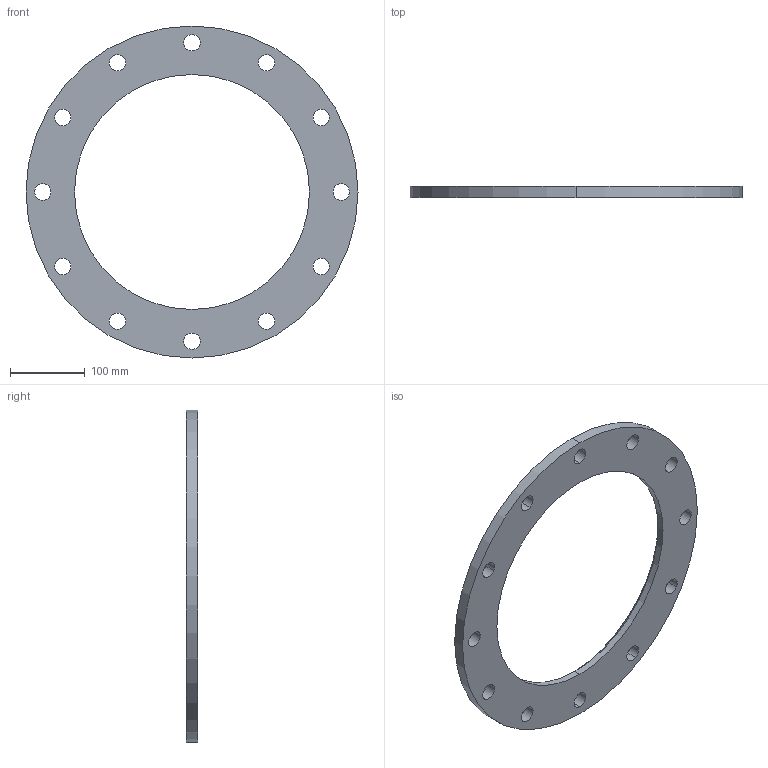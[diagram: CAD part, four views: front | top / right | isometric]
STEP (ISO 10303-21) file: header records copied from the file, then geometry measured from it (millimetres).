
FILE_DESCRIPTION (( 'STEP AP203' ), '1' );
FILE_NAME ('3D_R185_PN10_DN304_176641215_176642215.STEP', '2024-07-10T07:21:14', ( '' ), ( '' ), 'SwSTEP 2.0', 'SolidWorks 2024', '' );
FILE_SCHEMA (( 'CONFIG_CONTROL_DESIGN' ));
Length unit declared in the file: millimetre
Products named in the file (1): 3D_R185_PN10_DN304_176641215_176642215
Bounding box: 445 x 15 x 445 mm (x, y, z)
Volume: 1080394.2 mm3; surface area: 191177.4 mm2
Topology: 1 solids, 1 shells, 32 faces, 88 edges, 58 vertices
Faces by surface type: cylinder 28, cone 2, plane 2
Entity records: 1183 total; most frequent: DIRECTION 212, CARTESIAN_POINT 179, ORIENTED_EDGE 176, AXIS2_PLACEMENT_3D 91, EDGE_CURVE 88, CIRCLE 58, VERTEX_POINT 58, EDGE_LOOP 58
